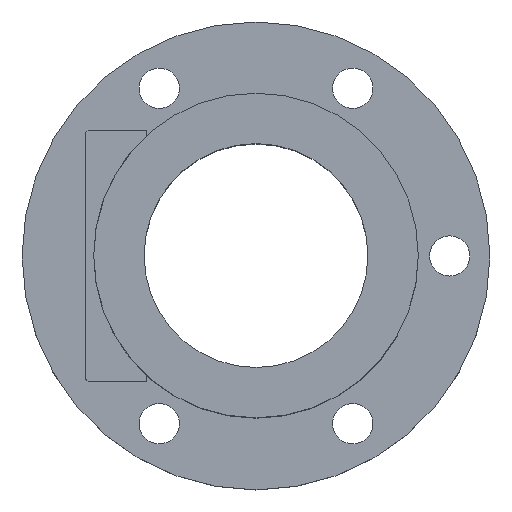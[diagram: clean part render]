
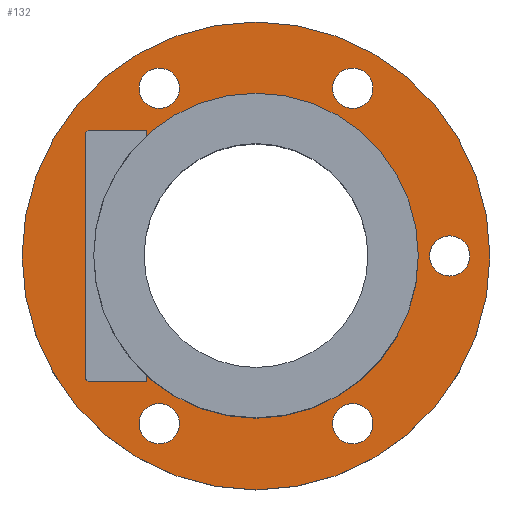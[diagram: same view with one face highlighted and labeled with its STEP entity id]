
A CAD part, top view. The second image highlights one B-rep face of the part: STEP entity #132.
In plain terms, the highlighted planar face has unit normal (0, 0, 1).
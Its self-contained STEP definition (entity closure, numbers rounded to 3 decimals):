
#97=PLANE('',#557);
#114=FACE_OUTER_BOUND('',#269,.T.);
#132=ADVANCED_FACE('',(#221,#222,#223,#114,#224,#225,#226),#97,.T.);
#221=FACE_BOUND('',#266,.T.);
#222=FACE_BOUND('',#267,.T.);
#223=FACE_BOUND('',#268,.T.);
#224=FACE_BOUND('',#270,.T.);
#225=FACE_BOUND('',#271,.T.);
#226=FACE_BOUND('',#272,.T.);
#266=EDGE_LOOP('',(#331));
#267=EDGE_LOOP('',(#332));
#268=EDGE_LOOP('',(#333));
#269=EDGE_LOOP('',(#334));
#270=EDGE_LOOP('',(#335));
#271=EDGE_LOOP('',(#336));
#272=EDGE_LOOP('',(#337));
#331=ORIENTED_EDGE('',*,*,#473,.F.);
#332=ORIENTED_EDGE('',*,*,#474,.F.);
#333=ORIENTED_EDGE('',*,*,#468,.F.);
#334=ORIENTED_EDGE('',*,*,#475,.T.);
#335=ORIENTED_EDGE('',*,*,#476,.F.);
#336=ORIENTED_EDGE('',*,*,#477,.F.);
#337=ORIENTED_EDGE('',*,*,#478,.F.);
#426=VERTEX_POINT('',#748);
#431=VERTEX_POINT('',#759);
#432=VERTEX_POINT('',#761);
#433=VERTEX_POINT('',#763);
#434=VERTEX_POINT('',#765);
#435=VERTEX_POINT('',#767);
#436=VERTEX_POINT('',#769);
#468=EDGE_CURVE('',#426,#426,#518,.T.);
#473=EDGE_CURVE('',#431,#431,#521,.T.);
#474=EDGE_CURVE('',#432,#432,#522,.T.);
#475=EDGE_CURVE('',#433,#433,#523,.T.);
#476=EDGE_CURVE('',#434,#434,#524,.T.);
#477=EDGE_CURVE('',#435,#435,#525,.T.);
#478=EDGE_CURVE('',#436,#436,#526,.T.);
#518=CIRCLE('',#547,72.5);
#521=CIRCLE('',#551,9.);
#522=CIRCLE('',#552,9.);
#523=CIRCLE('',#553,104.5);
#524=CIRCLE('',#554,9.);
#525=CIRCLE('',#555,9.);
#526=CIRCLE('',#556,9.);
#547=AXIS2_PLACEMENT_3D('',#747,#608,#609);
#551=AXIS2_PLACEMENT_3D('',#758,#618,#619);
#552=AXIS2_PLACEMENT_3D('',#760,#620,#621);
#553=AXIS2_PLACEMENT_3D('',#762,#622,#623);
#554=AXIS2_PLACEMENT_3D('',#764,#624,#625);
#555=AXIS2_PLACEMENT_3D('',#766,#626,#627);
#556=AXIS2_PLACEMENT_3D('',#768,#628,#629);
#557=AXIS2_PLACEMENT_3D('',#770,#630,#631);
#608=DIRECTION('',(0.,0.,1.));
#609=DIRECTION('',(1.,0.,0.));
#618=DIRECTION('',(0.,0.,1.));
#619=DIRECTION('',(-0.5,-0.866,0.));
#620=DIRECTION('',(0.,0.,1.));
#621=DIRECTION('',(0.5,0.866,0.));
#622=DIRECTION('',(0.,0.,1.));
#623=DIRECTION('',(1.,0.,0.));
#624=DIRECTION('',(0.,0.,1.));
#625=DIRECTION('',(1.,0.,0.));
#626=DIRECTION('',(0.,0.,1.));
#627=DIRECTION('',(-1.,0.,0.));
#628=DIRECTION('',(0.,0.,1.));
#629=DIRECTION('',(0.5,-0.866,0.));
#630=DIRECTION('',(0.,0.,1.));
#631=DIRECTION('',(1.,0.,0.));
#747=CARTESIAN_POINT('',(0.,0.,28.));
#748=CARTESIAN_POINT('',(72.5,0.,28.));
#758=CARTESIAN_POINT('',(43.25,-74.911,28.));
#759=CARTESIAN_POINT('',(38.75,-82.705,28.));
#760=CARTESIAN_POINT('',(-43.25,74.911,28.));
#761=CARTESIAN_POINT('',(-38.75,82.705,28.));
#762=CARTESIAN_POINT('',(0.,0.,28.));
#763=CARTESIAN_POINT('',(104.5,0.,28.));
#764=CARTESIAN_POINT('',(43.25,74.911,28.));
#765=CARTESIAN_POINT('',(52.25,74.911,28.));
#766=CARTESIAN_POINT('',(-43.25,-74.911,28.));
#767=CARTESIAN_POINT('',(-52.25,-74.911,28.));
#768=CARTESIAN_POINT('',(86.5,0.,28.));
#769=CARTESIAN_POINT('',(91.,-7.794,28.));
#770=CARTESIAN_POINT('',(0.,0.,28.));
